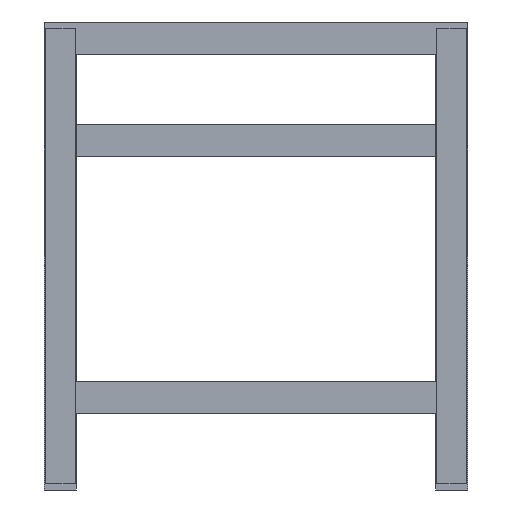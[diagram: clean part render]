
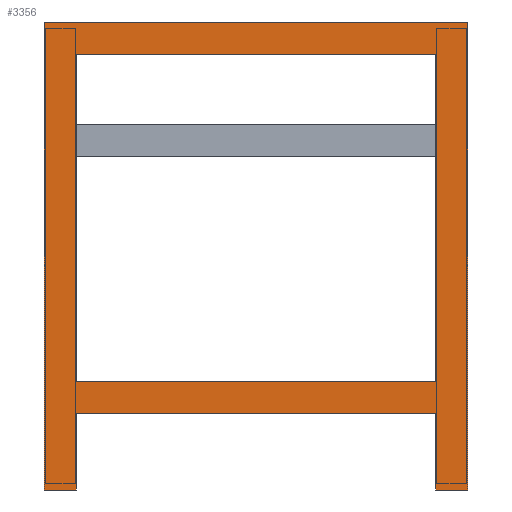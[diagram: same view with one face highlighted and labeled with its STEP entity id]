
A CAD part, left-side view. The second image highlights one B-rep face of the part: STEP entity #3356.
In plain terms, the highlighted planar face has unit normal (-1, 0, 0).
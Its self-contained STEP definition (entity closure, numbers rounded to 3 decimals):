
#360=ORIENTED_EDGE('',*,*,#991,.F.);
#361=ORIENTED_EDGE('',*,*,#992,.F.);
#362=ORIENTED_EDGE('',*,*,#974,.F.);
#363=ORIENTED_EDGE('',*,*,#988,.T.);
#364=ORIENTED_EDGE('',*,*,#993,.T.);
#365=ORIENTED_EDGE('',*,*,#952,.F.);
#366=ORIENTED_EDGE('',*,*,#994,.F.);
#367=ORIENTED_EDGE('',*,*,#995,.T.);
#368=ORIENTED_EDGE('',*,*,#914,.F.);
#369=ORIENTED_EDGE('',*,*,#996,.T.);
#370=ORIENTED_EDGE('',*,*,#997,.T.);
#371=ORIENTED_EDGE('',*,*,#937,.F.);
#914=EDGE_CURVE('',#1254,#1255,#1496,.T.);
#937=EDGE_CURVE('',#1255,#1266,#1519,.T.);
#952=EDGE_CURVE('',#1276,#1277,#1534,.T.);
#974=EDGE_CURVE('',#1292,#1293,#1552,.T.);
#988=EDGE_CURVE('',#1292,#1305,#1566,.T.);
#991=EDGE_CURVE('',#1306,#1307,#1569,.T.);
#992=EDGE_CURVE('',#1293,#1306,#1570,.T.);
#993=EDGE_CURVE('',#1305,#1277,#1571,.T.);
#994=EDGE_CURVE('',#1308,#1276,#1572,.T.);
#995=EDGE_CURVE('',#1308,#1307,#1573,.T.);
#996=EDGE_CURVE('',#1254,#1309,#1574,.T.);
#997=EDGE_CURVE('',#1309,#1266,#1575,.T.);
#1254=VERTEX_POINT('',#4530);
#1255=VERTEX_POINT('',#4532);
#1266=VERTEX_POINT('',#4571);
#1276=VERTEX_POINT('',#4597);
#1277=VERTEX_POINT('',#4598);
#1292=VERTEX_POINT('',#4637);
#1293=VERTEX_POINT('',#4639);
#1305=VERTEX_POINT('',#4665);
#1306=VERTEX_POINT('',#4671);
#1307=VERTEX_POINT('',#4672);
#1308=VERTEX_POINT('',#4676);
#1309=VERTEX_POINT('',#4679);
#1496=LINE('',#4531,#1830);
#1519=LINE('',#4570,#1853);
#1534=LINE('',#4596,#1868);
#1552=LINE('',#4638,#1886);
#1566=LINE('',#4666,#1900);
#1569=LINE('',#4670,#1903);
#1570=LINE('',#4673,#1904);
#1571=LINE('',#4674,#1905);
#1572=LINE('',#4675,#1906);
#1573=LINE('',#4677,#1907);
#1574=LINE('',#4678,#1908);
#1575=LINE('',#4680,#1909);
#1830=VECTOR('',#3809,1000.);
#1853=VECTOR('',#3842,1000.);
#1868=VECTOR('',#3859,1000.);
#1886=VECTOR('',#3891,1000.);
#1900=VECTOR('',#3907,1000.);
#1903=VECTOR('',#3912,1000.);
#1904=VECTOR('',#3913,1000.);
#1905=VECTOR('',#3914,1000.);
#1906=VECTOR('',#3915,1000.);
#1907=VECTOR('',#3916,1000.);
#1908=VECTOR('',#3917,1000.);
#1909=VECTOR('',#3918,1000.);
#2086=EDGE_LOOP('',(#360,#361,#362,#363,#364,#365,#366,#367));
#2087=EDGE_LOOP('',(#368,#369,#370,#371));
#2252=FACE_BOUND('',#2086,.T.);
#2253=FACE_BOUND('',#2087,.T.);
#2384=PLANE('',#3499);
#3356=ADVANCED_FACE('',(#2252,#2253),#2384,.F.);
#3499=AXIS2_PLACEMENT_3D('',#4669,#3910,#3911);
#3809=DIRECTION('',(0.,1.,0.));
#3842=DIRECTION('',(0.,0.,-1.));
#3859=DIRECTION('',(0.,0.,-1.));
#3891=DIRECTION('',(0.,-1.,0.));
#3907=DIRECTION('',(0.,0.,-1.));
#3910=DIRECTION('',(1.,0.,0.));
#3911=DIRECTION('',(0.,0.,-1.));
#3912=DIRECTION('',(0.,1.,0.));
#3913=DIRECTION('',(0.,0.,-1.));
#3914=DIRECTION('',(0.,-1.,0.));
#3915=DIRECTION('',(0.,1.,0.));
#3916=DIRECTION('',(0.,0.,-1.));
#3917=DIRECTION('',(0.,0.,-1.));
#3918=DIRECTION('',(0.,1.,0.));
#4530=CARTESIAN_POINT('',(-510.,-280.,680.));
#4531=CARTESIAN_POINT('',(-510.,-282.,680.));
#4532=CARTESIAN_POINT('',(-510.,280.,680.));
#4570=CARTESIAN_POINT('',(-510.,280.,730.));
#4571=CARTESIAN_POINT('',(-510.,280.,170.));
#4596=CARTESIAN_POINT('',(-510.,280.,730.));
#4597=CARTESIAN_POINT('',(-510.,280.,120.));
#4598=CARTESIAN_POINT('',(-510.,280.,0.));
#4637=CARTESIAN_POINT('',(-510.,330.,730.));
#4638=CARTESIAN_POINT('',(-510.,330.,730.));
#4639=CARTESIAN_POINT('',(-510.,-330.,730.));
#4665=CARTESIAN_POINT('',(-510.,330.,0.));
#4666=CARTESIAN_POINT('',(-510.,330.,730.));
#4669=CARTESIAN_POINT('',(-510.,330.,730.));
#4670=CARTESIAN_POINT('',(-510.,-330.,0.));
#4671=CARTESIAN_POINT('',(-510.,-330.,0.));
#4672=CARTESIAN_POINT('',(-510.,-280.,0.));
#4673=CARTESIAN_POINT('',(-510.,-330.,730.));
#4674=CARTESIAN_POINT('',(-510.,330.,0.));
#4675=CARTESIAN_POINT('',(-510.,-282.,120.));
#4676=CARTESIAN_POINT('',(-510.,-280.,120.));
#4677=CARTESIAN_POINT('',(-510.,-280.,730.));
#4678=CARTESIAN_POINT('',(-510.,-280.,730.));
#4679=CARTESIAN_POINT('',(-510.,-280.,170.));
#4680=CARTESIAN_POINT('',(-510.,-282.,170.));
